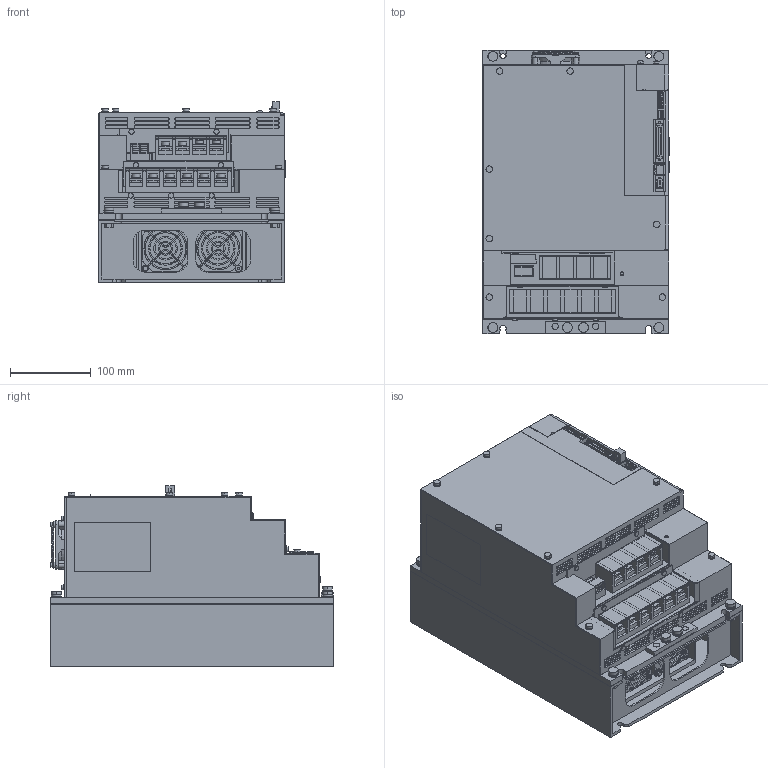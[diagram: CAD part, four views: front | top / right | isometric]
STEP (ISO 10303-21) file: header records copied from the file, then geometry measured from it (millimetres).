
FILE_DESCRIPTION (( 'STEP AP203' ), '1' );
FILE_NAME ('sgdv_260d0_a.STEP', '2009-05-13T13:06:41', ( 'T' ), ( 'T' ), 'SwSTEP 2.0', 'SolidWorks 2006052', '' );
FILE_SCHEMA (( 'CONFIG_CONTROL_DESIGN' ));
Products named in the file (8): sgdv_260d0_a; sgdv_260d0_a_connector; sgdv_260d0_a_base; sgdv_260d0_a_cover; sgdv_260d0_a_cover2; sgdv_260d0_a_cover3; sgdv_260d0_a_cover4; sgdv_260d0_a_cover5
Assembly tree (8 placements, depth 2):
  sgdv_260d0_a
    sgdv_260d0_a_base
    sgdv_260d0_a_cover
    sgdv_260d0_a_cover3
    sgdv_260d0_a_cover2  x2
    sgdv_260d0_a_cover5
    sgdv_260d0_a_cover4
    sgdv_260d0_a_connector
Bounding box: 230.6 x 350 x 223 mm (x, y, z)
Volume: 13363494.9 mm3; surface area: 643928 mm2
Topology: 8 solids, 8 shells, 2695 faces, 7405 edges, 4890 vertices
Faces by surface type: plane 2081, cylinder 593, cone 20, sphere 1
Entity records: 85575 total; most frequent: CARTESIAN_POINT 15034, ORIENTED_EDGE 14702, DIRECTION 14123, EDGE_CURVE 7351, LINE 5885, VECTOR 5885, VERTEX_POINT 4854, AXIS2_PLACEMENT_3D 4119
